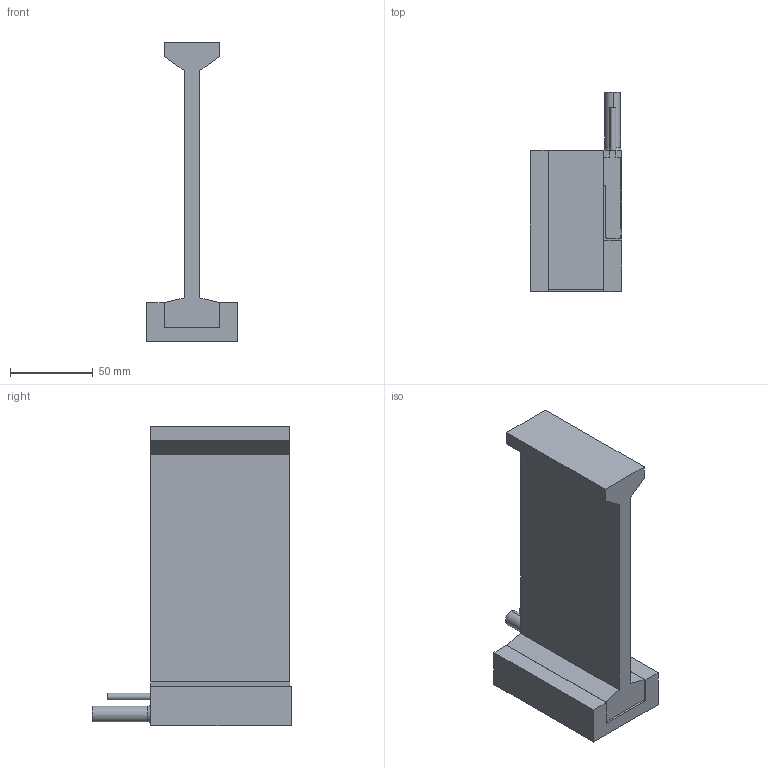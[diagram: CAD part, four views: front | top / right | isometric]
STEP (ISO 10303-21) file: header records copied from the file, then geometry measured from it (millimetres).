
FILE_DESCRIPTION (( 'STEP AP214' ), '1' );
FILE_NAME ('DX140F-C1.STEP', '2021-07-16T04:29:25', ( '' ), ( '' ), 'SwSTEP 2.0', 'SolidWorks 2020', '' );
FILE_SCHEMA (( 'AUTOMOTIVE_DESIGN' ));
Length unit declared in the file: millimetre
Products named in the file (6): DX140FH-X.X-ZZ-00 (CUSTOMER); HEX SHCS M3x0.5x12(S.S)_B18.3.1M - 3 x 0.5 x 12 Hex SHCS -- 12CHX; DX140FCX01_C1 CUSTOMER; TIM-PC 8850FT-LV (DX140F)_C1; CBL_PWR_D10; DX140F-C1
Assembly tree (6 placements, depth 2):
  DX140F-C1
    TIM-PC 8850FT-LV (DX140F)_C1
    DX140FCX01_C1 CUSTOMER
    HEX SHCS M3x0.5x12(S.S)_B18.3.1M - 3 x 0.5 x 12 Hex SHCS -- 12CHX  x2
    CBL_PWR_D10
    DX140FH-X.X-ZZ-00 (CUSTOMER)
Bounding box: 55 x 120 x 180.6 mm (x, y, z)
Volume: 261054.8 mm3; surface area: 67763.4 mm2
Topology: 8 solids, 8 shells, 197 faces, 477 edges, 295 vertices
Faces by surface type: plane 116, cylinder 53, cone 22, torus 6
Entity records: 5337 total; most frequent: DIRECTION 881, CARTESIAN_POINT 848, ORIENTED_EDGE 814, EDGE_CURVE 407, AXIS2_PLACEMENT_3D 295, LINE 291, VECTOR 291, VERTEX_POINT 262
